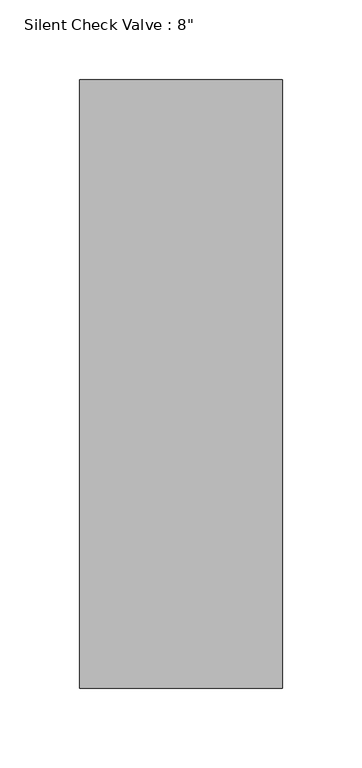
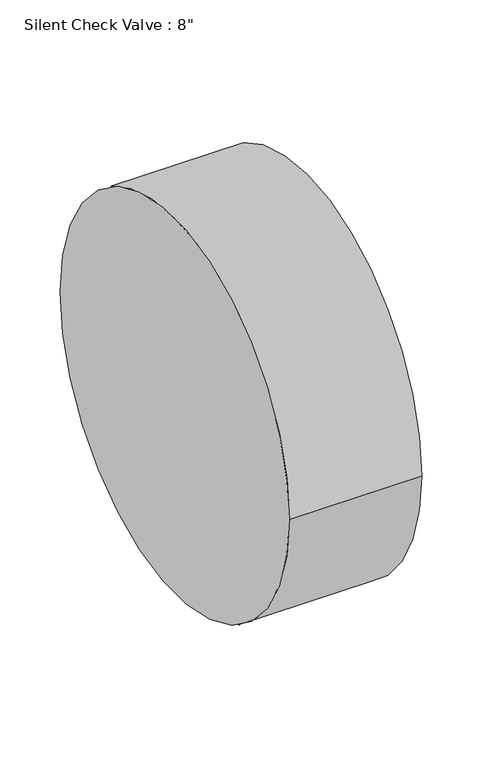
"""IFC4 building model written with IfcOpenShell, lengths in millimetres: valve geometry."""

from ifc_helpers import new_model, si_unit, point, frame, origin, origin_2d, place, context, project, spatial, circle_curve, trimmed, segment, composite_curve, outline, extrude, source, transform, mapped, element, save


def valve_584c7ff7(model_context):
    return source(origin(), model_context, "Body", "SweptSolid", [
        extrude(outline(composite_curve([segment(trimmed(circle_curve(origin_2d(), 190.5), [point((-190.5, 0.0))], [point((190.5, 0.0))], False, "CARTESIAN"), True, "CONTINUOUS"), segment(trimmed(circle_curve(origin_2d(), 190.5), [point((190.5, 0.0))], [point((-190.5, 0.0))], False, "CARTESIAN"), True, "CONTINUOUS")], self_intersect=False)), frame((-63.5, 0.0, 0.0), z_axis=(1.0, 0.0, 0.0), x_axis=(0.0, 1.0, 0.0)), (0.0, 0.0, 1.0), 127.0),
    ])


if __name__ == "__main__":
    model = new_model("IFC4")
    model_context = context("Model", 3, world=origin())
    ifc_project = project(units=[si_unit("LENGTHUNIT", "METRE", prefix="MILLI")], contexts=[model_context])
    site = spatial("IfcSite", under=ifc_project)
    building = spatial("IfcBuilding", under=site)
    placement = place(None, origin())
    valve_shape = valve_584c7ff7(model_context)
    element("IfcValve", 1, ObjectType="Silent Check Valve : 8\"", at=placement, inside=building, context=model_context, shape_type="MappedRepresentation", body=[
        mapped(valve_shape, transform((0.0, 0.0, 0.0), x_axis=(1.0, 0.0, 0.0), y_axis=(0.0, 1.0, 0.0), z_axis=(0.0, 0.0, 1.0))),
    ])
    save(model, "model.ifc")
